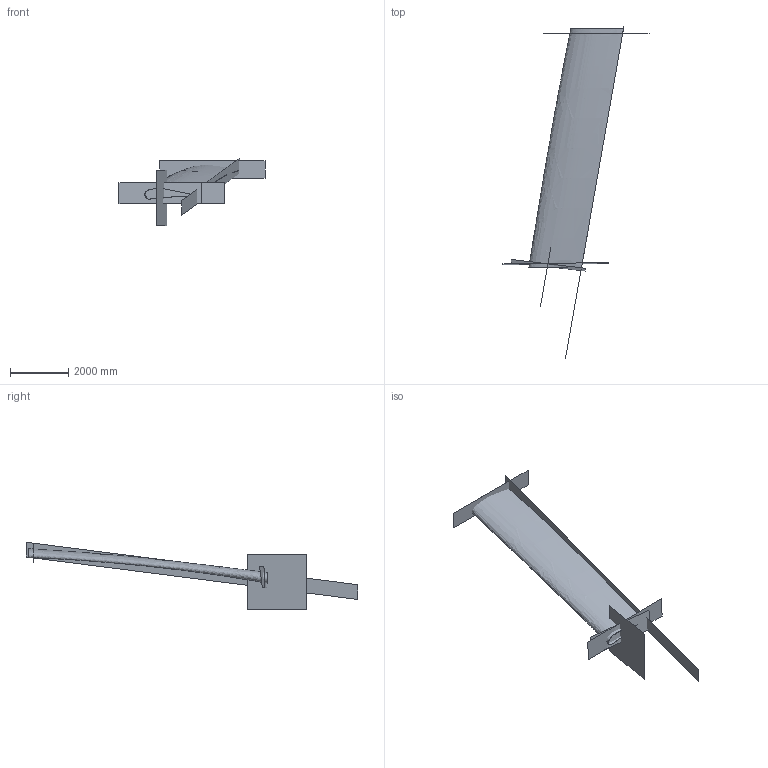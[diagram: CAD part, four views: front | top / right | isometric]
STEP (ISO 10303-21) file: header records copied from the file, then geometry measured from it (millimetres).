
FILE_DESCRIPTION((''),'2;1');
FILE_NAME('','2022-02-22T08:47:11',(''),(''),'','CADfix','');
FILE_SCHEMA(('AUTOMOTIVE_DESIGN { 1 0 10303 214 1 1 1 1 }'));
Bounding box: 5023.97 x 11420.69 x 2319.34 mm (x, y, z)
Surface area: 111196678.2 mm2 (no closed solid volume)
Topology: 0 solids, 0 shells, 8 faces, 32 edges, 32 vertices
Faces by surface type: bspline 8
Entity records: 50535 total; most frequent: CARTESIAN_POINT 50508, B_SPLINE_SURFACE_WITH_KNOTS 8, DIMENSIONAL_EXPONENTS 2, PLANE_ANGLE_MEASURE_WITH_UNIT 1, LENGTH_MEASURE_WITH_UNIT 1, UNCERTAINTY_MEASURE_WITH_UNIT 1, GEOMETRIC_SET 1, GEOMETRICALLY_BOUNDED_SURFACE_SHAPE_REPRESENTATION 1
